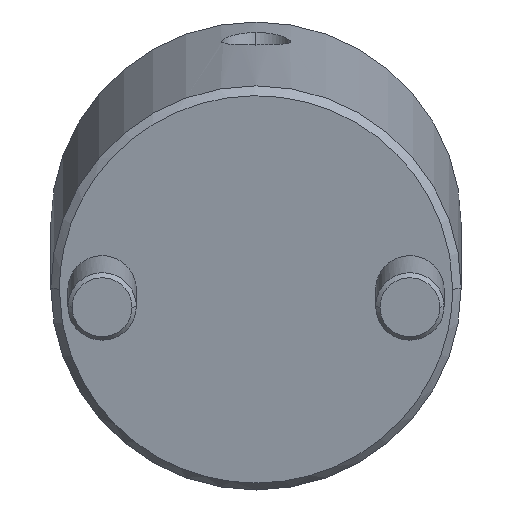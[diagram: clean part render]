
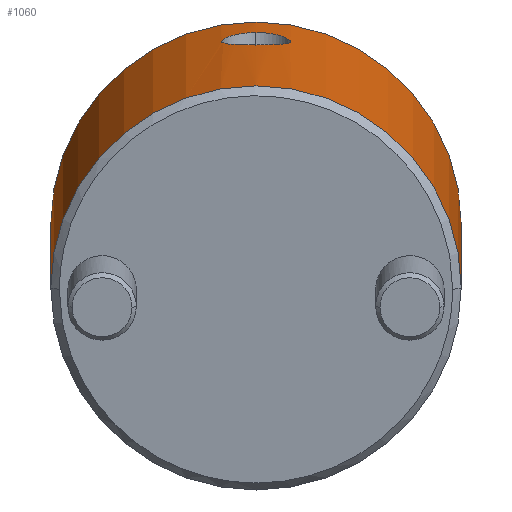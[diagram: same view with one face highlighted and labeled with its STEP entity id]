
A CAD part, front view. The second image highlights one B-rep face of the part: STEP entity #1060.
In plain terms, the highlighted cylindrical face has radius 24 mm (diameter 48 mm), a partial arc.
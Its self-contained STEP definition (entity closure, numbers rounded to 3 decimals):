
#802=CARTESIAN_POINT('Vertex',(0.,24.,1.)) ;
#805=CARTESIAN_POINT('Axis2P3D Location',(0.,0.,1.)) ;
#809=CARTESIAN_POINT('Vertex',(0.,-24.,1.)) ;
#961=CARTESIAN_POINT('Axis2P3D Location',(0.,0.,-2.25)) ;
#966=CARTESIAN_POINT('Line Origine',(0.,24.,-2.25)) ;
#970=CARTESIAN_POINT('Vertex',(0.,24.,44.)) ;
#973=CARTESIAN_POINT('Axis2P3D Location',(0.,0.,44.)) ;
#977=CARTESIAN_POINT('Vertex',(0.,-24.,44.)) ;
#980=CARTESIAN_POINT('Line Origine',(0.,-24.,-2.25)) ;
#992=CARTESIAN_POINT('Control Point',(24.,0.,36.913)) ;
#993=CARTESIAN_POINT('Control Point',(24.,0.582,36.913)) ;
#994=CARTESIAN_POINT('Control Point',(23.982,1.153,36.804)) ;
#995=CARTESIAN_POINT('Control Point',(23.948,1.703,36.586)) ;
#996=CARTESIAN_POINT('Control Point',(23.888,2.367,36.172)) ;
#997=CARTESIAN_POINT('Control Point',(23.823,2.916,35.611)) ;
#998=CARTESIAN_POINT('Control Point',(23.806,3.048,35.458)) ;
#999=CARTESIAN_POINT('Control Point',(23.774,3.292,35.141)) ;
#1000=CARTESIAN_POINT('Control Point',(23.744,3.495,34.796)) ;
#1001=CARTESIAN_POINT('Control Point',(23.731,3.587,34.619)) ;
#1002=CARTESIAN_POINT('Control Point',(23.706,3.747,34.254)) ;
#1003=CARTESIAN_POINT('Control Point',(23.687,3.864,33.874)) ;
#1004=CARTESIAN_POINT('Control Point',(23.679,3.911,33.681)) ;
#1005=CARTESIAN_POINT('Control Point',(23.667,3.981,33.292)) ;
#1006=CARTESIAN_POINT('Control Point',(23.663,4.006,32.895)) ;
#1007=CARTESIAN_POINT('Control Point',(23.663,4.006,32.7)) ;
#1008=CARTESIAN_POINT('Control Point',(23.667,3.983,32.307)) ;
#1009=CARTESIAN_POINT('Control Point',(23.679,3.914,31.922)) ;
#1010=CARTESIAN_POINT('Control Point',(23.686,3.868,31.732)) ;
#1011=CARTESIAN_POINT('Control Point',(23.714,3.695,31.172)) ;
#1012=CARTESIAN_POINT('Control Point',(23.756,3.424,30.653)) ;
#1013=CARTESIAN_POINT('Control Point',(23.788,3.201,30.33)) ;
#1014=CARTESIAN_POINT('Control Point',(23.846,2.744,29.818)) ;
#1015=CARTESIAN_POINT('Control Point',(23.902,2.191,29.416)) ;
#1016=CARTESIAN_POINT('Control Point',(23.924,1.937,29.266)) ;
#1017=CARTESIAN_POINT('Control Point',(23.962,1.414,29.017)) ;
#1018=CARTESIAN_POINT('Control Point',(23.987,0.853,28.865)) ;
#1019=CARTESIAN_POINT('Control Point',(23.996,0.57,28.814)) ;
#1020=CARTESIAN_POINT('Control Point',(24.,0.286,28.79)) ;
#1021=CARTESIAN_POINT('Control Point',(24.,0.,28.79)) ;
#1022=CARTESIAN_POINT('Vertex',(24.,0.,36.913)) ;
#1024=CARTESIAN_POINT('Vertex',(24.,0.,28.79)) ;
#1028=CARTESIAN_POINT('Control Point',(24.,0.,28.79)) ;
#1029=CARTESIAN_POINT('Control Point',(24.,-0.392,28.79)) ;
#1030=CARTESIAN_POINT('Control Point',(23.992,-0.781,28.836)) ;
#1031=CARTESIAN_POINT('Control Point',(23.976,-1.167,28.931)) ;
#1032=CARTESIAN_POINT('Control Point',(23.931,-1.903,29.211)) ;
#1033=CARTESIAN_POINT('Control Point',(23.867,-2.548,29.659)) ;
#1034=CARTESIAN_POINT('Control Point',(23.834,-2.841,29.921)) ;
#1035=CARTESIAN_POINT('Control Point',(23.775,-3.291,30.438)) ;
#1036=CARTESIAN_POINT('Control Point',(23.726,-3.619,31.036)) ;
#1037=CARTESIAN_POINT('Control Point',(23.708,-3.736,31.304)) ;
#1038=CARTESIAN_POINT('Control Point',(23.683,-3.889,31.767)) ;
#1039=CARTESIAN_POINT('Control Point',(23.669,-3.971,32.251)) ;
#1040=CARTESIAN_POINT('Control Point',(23.666,-3.993,32.447)) ;
#1041=CARTESIAN_POINT('Control Point',(23.661,-4.021,33.042)) ;
#1042=CARTESIAN_POINT('Control Point',(23.674,-3.942,33.637)) ;
#1043=CARTESIAN_POINT('Control Point',(23.691,-3.843,34.022)) ;
#1044=CARTESIAN_POINT('Control Point',(23.725,-3.628,34.581)) ;
#1045=CARTESIAN_POINT('Control Point',(23.77,-3.317,35.093)) ;
#1046=CARTESIAN_POINT('Control Point',(23.786,-3.205,35.256)) ;
#1047=CARTESIAN_POINT('Control Point',(23.818,-2.958,35.571)) ;
#1048=CARTESIAN_POINT('Control Point',(23.851,-2.678,35.852)) ;
#1049=CARTESIAN_POINT('Control Point',(23.867,-2.531,35.982)) ;
#1050=CARTESIAN_POINT('Control Point',(23.921,-2.003,36.397)) ;
#1051=CARTESIAN_POINT('Control Point',(23.965,-1.4,36.694)) ;
#1052=CARTESIAN_POINT('Control Point',(23.988,-0.944,36.84)) ;
#1053=CARTESIAN_POINT('Control Point',(24.,-0.476,36.913)) ;
#1054=CARTESIAN_POINT('Control Point',(24.,0.,36.913)) ;
#806=DIRECTION('Axis2P3D Direction',(0.,0.,1.)) ;
#962=DIRECTION('Axis2P3D Direction',(0.,-0.,1.)) ;
#963=DIRECTION('Axis2P3D XDirection',(0.,-1.,0.)) ;
#967=DIRECTION('Vector Direction',(0.,0.,1.)) ;
#974=DIRECTION('Axis2P3D Direction',(0.,-0.,1.)) ;
#981=DIRECTION('Vector Direction',(0.,0.,1.)) ;
#807=AXIS2_PLACEMENT_3D('Circle Axis2P3D',#805,#806,$) ;
#964=AXIS2_PLACEMENT_3D('Cylinder Axis2P3D',#961,#962,#963) ;
#975=AXIS2_PLACEMENT_3D('Circle Axis2P3D',#973,#974,$) ;
#986=ORIENTED_EDGE('',*,*,#972,.F.) ;
#987=ORIENTED_EDGE('',*,*,#979,.T.) ;
#988=ORIENTED_EDGE('',*,*,#984,.T.) ;
#989=ORIENTED_EDGE('',*,*,#811,.F.) ;
#1057=ORIENTED_EDGE('',*,*,#1026,.T.) ;
#1058=ORIENTED_EDGE('',*,*,#1055,.T.) ;
#1059=FACE_BOUND('',#1056,.T.) ;
#968=VECTOR('Line Direction',#967,1.) ;
#982=VECTOR('Line Direction',#981,1.) ;
#1060=ADVANCED_FACE('MANIFOLD_SOLID_BREP #1138',(#990,#1059),#965,.T.) ;
#991=B_SPLINE_CURVE_WITH_KNOTS('',5,(#992,#993,#994,#995,#996,#997,#998,#999,#1000,#1001,#1002,#1003,#1004,#1005,#1006,#1007,#1008,#1009,#1010,#1011,#1012,#1013,#1014,#1015,#1016,#1017,#1018,#1019,#1020,#1021),.UNSPECIFIED.,.F.,.U.,(6,3,3,3,3,3,3,3,3,6),(0.,4.132,5.523,6.921,8.312,9.683,11.058,13.836,15.922,17.949),.UNSPECIFIED.) ;
#1027=B_SPLINE_CURVE_WITH_KNOTS('',5,(#1028,#1029,#1030,#1031,#1032,#1033,#1034,#1035,#1036,#1037,#1038,#1039,#1040,#1041,#1042,#1043,#1044,#1045,#1046,#1047,#1048,#1049,#1050,#1051,#1052,#1053,#1054),.UNSPECIFIED.,.F.,.U.,(6,3,3,3,3,3,3,3,6),(0.,2.782,5.564,7.639,9.01,11.786,13.181,14.576,17.952),.UNSPECIFIED.) ;
#808=CIRCLE('generated circle',#807,24.) ;
#976=CIRCLE('generated circle',#975,24.) ;
#965=CYLINDRICAL_SURFACE('generated cylinder',#964,24.) ;
#811=EDGE_CURVE('',#803,#810,#808,.F.) ;
#972=EDGE_CURVE('',#971,#803,#969,.F.) ;
#979=EDGE_CURVE('',#971,#978,#976,.F.) ;
#984=EDGE_CURVE('',#978,#810,#983,.F.) ;
#1026=EDGE_CURVE('',#1023,#1025,#991,.T.) ;
#1055=EDGE_CURVE('',#1025,#1023,#1027,.T.) ;
#985=EDGE_LOOP('',(#986,#987,#988,#989)) ;
#1056=EDGE_LOOP('',(#1057,#1058)) ;
#990=FACE_OUTER_BOUND('',#985,.T.) ;
#969=LINE('Line',#966,#968) ;
#983=LINE('Line',#980,#982) ;
#803=VERTEX_POINT('',#802) ;
#810=VERTEX_POINT('',#809) ;
#971=VERTEX_POINT('',#970) ;
#978=VERTEX_POINT('',#977) ;
#1023=VERTEX_POINT('',#1022) ;
#1025=VERTEX_POINT('',#1024) ;
